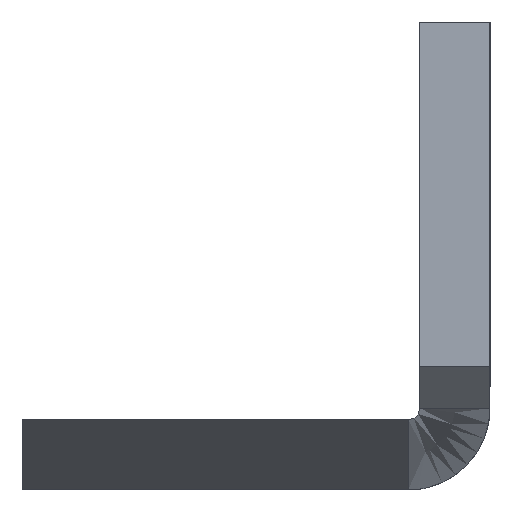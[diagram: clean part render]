
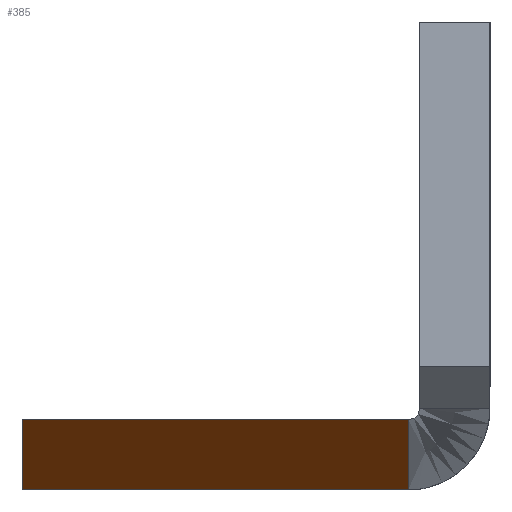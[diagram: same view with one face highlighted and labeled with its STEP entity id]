
A CAD part, left-side view. The second image highlights one B-rep face of the part: STEP entity #385.
In plain terms, the highlighted planar face has unit normal (-0.447, 0.894, 0).
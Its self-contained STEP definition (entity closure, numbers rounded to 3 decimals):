
#119 = FACE_OUTER_BOUND ( 'NONE', #2406, .T. ) ;
#227 = EDGE_CURVE ( 'NONE', #2569, #395, #1935, .T. ) ;
#356 = CARTESIAN_POINT ( 'NONE',  ( -360., 17., -20. ) ) ;
#385 = ADVANCED_FACE ( 'NONE', ( #119 ), #2899, .T. ) ;
#395 = VERTEX_POINT ( 'NONE', #2129 ) ;
#486 = AXIS2_PLACEMENT_3D ( 'NONE', #2862, #1649, #2109 ) ;
#612 = VERTEX_POINT ( 'NONE', #3153 ) ;
#633 = LINE ( 'NONE', #356, #735 ) ;
#638 = CARTESIAN_POINT ( 'NONE',  ( -360., 17., -17. ) ) ;
#656 = VECTOR ( 'NONE', #3214, 1000. ) ;
#735 = VECTOR ( 'NONE', #1371, 1000. ) ;
#958 = DIRECTION ( 'NONE',  ( -0.894, -0.447, 0. ) ) ;
#1006 = ORIENTED_EDGE ( 'NONE', *, *, #3205, .F. ) ;
#1178 = CARTESIAN_POINT ( 'NONE',  ( -400., -3., -20. ) ) ;
#1314 = CARTESIAN_POINT ( 'NONE',  ( -393., 0.5, -17. ) ) ;
#1371 = DIRECTION ( 'NONE',  ( 0., 0., 1. ) ) ;
#1649 = DIRECTION ( 'NONE',  ( -0.447, 0.894, 0. ) ) ;
#1910 = EDGE_CURVE ( 'NONE', #2252, #612, #3049, .T. ) ;
#1935 = LINE ( 'NONE', #2752, #656 ) ;
#2104 = ORIENTED_EDGE ( 'NONE', *, *, #2973, .F. ) ;
#2109 = DIRECTION ( 'NONE',  ( -0.894, -0.447, 0. ) ) ;
#2129 = CARTESIAN_POINT ( 'NONE',  ( -393., 0.5, -17. ) ) ;
#2171 = VECTOR ( 'NONE', #958, 1000. ) ;
#2252 = VERTEX_POINT ( 'NONE', #3266 ) ;
#2406 = EDGE_LOOP ( 'NONE', ( #1006, #3045, #2104, #3161 ) ) ;
#2569 = VERTEX_POINT ( 'NONE', #638 ) ;
#2752 = CARTESIAN_POINT ( 'NONE',  ( -400., -3., -17. ) ) ;
#2862 = CARTESIAN_POINT ( 'NONE',  ( -400., -3., -20. ) ) ;
#2899 = PLANE ( 'NONE',  #486 ) ;
#2973 = EDGE_CURVE ( 'NONE', #2252, #2569, #633, .T. ) ;
#3045 = ORIENTED_EDGE ( 'NONE', *, *, #227, .F. ) ;
#3049 = LINE ( 'NONE', #1178, #2171 ) ;
#3148 = CARTESIAN_POINT ( 'NONE',  ( -393., 0.5, -20. ) ) ;
#3153 = CARTESIAN_POINT ( 'NONE',  ( -393., 0.5, -20. ) ) ;
#3161 = ORIENTED_EDGE ( 'NONE', *, *, #1910, .T. ) ;
#3205 = EDGE_CURVE ( 'NONE', #395, #612, #3250, .T. ) ;
#3214 = DIRECTION ( 'NONE',  ( -0.894, -0.447, 0. ) ) ;
#3250 = B_SPLINE_CURVE_WITH_KNOTS ( 'NONE', 1,
 ( #1314, #3148 ),
 .UNSPECIFIED., .F., .F.,
 ( 2, 2 ),
 ( 0., 1. ),
 .UNSPECIFIED. ) ;
#3266 = CARTESIAN_POINT ( 'NONE',  ( -360., 17., -20. ) ) ;
